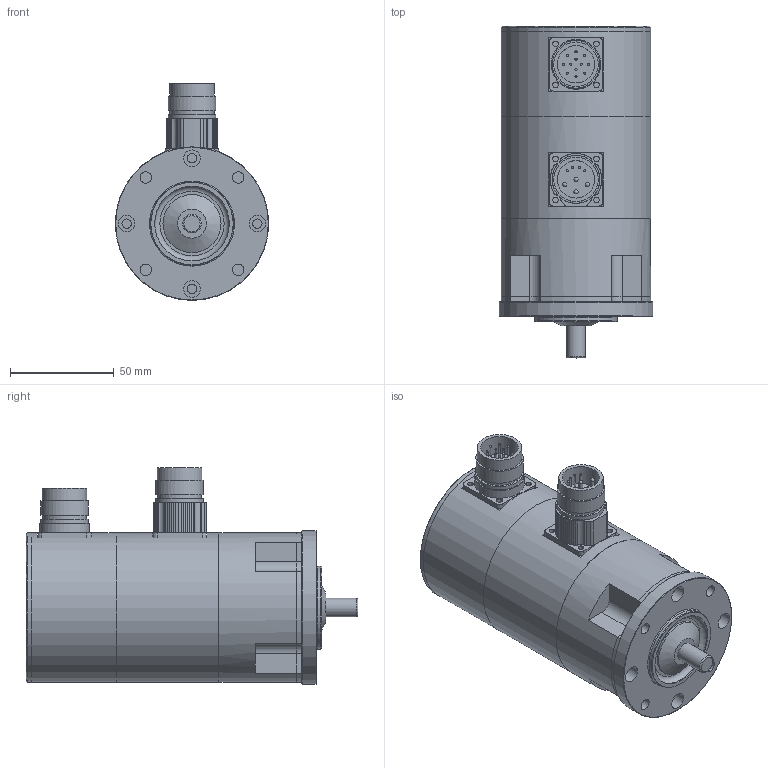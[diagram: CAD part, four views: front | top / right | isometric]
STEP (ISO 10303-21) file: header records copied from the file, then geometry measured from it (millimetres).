
FILE_DESCRIPTION(/* description */ (''),/* implementation_level */ '2;1');
FILE_NAME(/* name */ 'ksy_162e_rx',/* time_stamp */ '2007-03-16T12:54:30+01:00',/* author */ (''),/* organization */ (''),/* preprocessor_version */ 'ST-DEVELOPER v8',/* originating_system */ 'UNIGRAPHICS SOLUTIONS - UNIGRAPHICS 18.0',/* authorisation */ '');
FILE_SCHEMA (('AUTOMOTIVE_DESIGN { 1 2 10303 214 0 1 1 1 }'));
Length unit declared in the file: millimetre
Products named in the file (11): 064309_0; 111023_0; 014261_0; 014260_0; 06330401_0; DIN3760_org_A10x24x7_0; Rotor_SY 16.. E_0; 064269_0; Gehaeuse_SY 16.. E_0; 111014_0; KSY164_E-RC_0
Assembly tree (10 placements, depth 2):
  KSY164_E-RC_0
    111014_0
    Gehaeuse_SY 16.. E_0
    064269_0
    Rotor_SY 16.. E_0
    DIN3760_org_A10x24x7_0
    06330401_0
    014260_0
    014261_0
    111023_0
    064309_0
Bounding box: 74 x 160 x 104.5 mm (x, y, z)
Volume: 500592.8 mm3; surface area: 97502.4 mm2
Topology: 10 solids, 10 shells, 309 faces, 768 edges, 493 vertices
Faces by surface type: cylinder 164, plane 96, sphere 20, cone 19, torus 10
Full cylindrical faces by diameter (mm): 1 x16, 2 x4, 2.7 x8, 3.5 x4, 4.5 x4, 5.5 x4, 6 x4, 8 x4, 8.52 x1, 8.95 x1, 9 x1, 10 x2, 10.3 x1, 18 x2, 20 x5, 21 x3, 21.5 x2, 23 x4, 24 x3, 26 x1, 28 x1, 36 x1, 40 x1, 44 x1, 49.3 x1, 51 x3, 51.3 x1, 53 x2, 72 x4, 74 x1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
Entity records: 8298 total; most frequent: DIRECTION 1552, CARTESIAN_POINT 1286, ORIENTED_EDGE 1078, AXIS2_PLACEMENT_3D 693, EDGE_CURVE 539, EDGE_LOOP 532, VERTEX_POINT 427, CIRCLE 373
